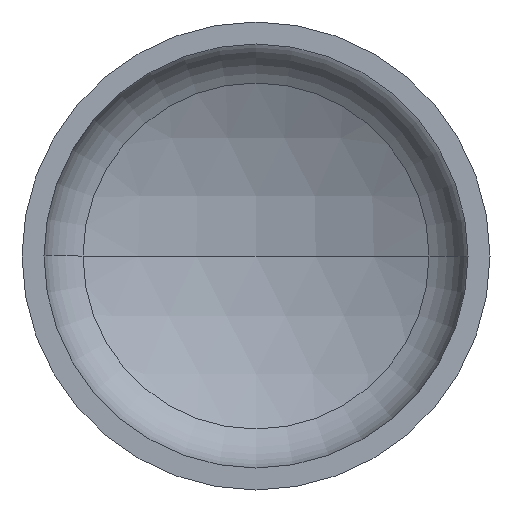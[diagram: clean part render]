
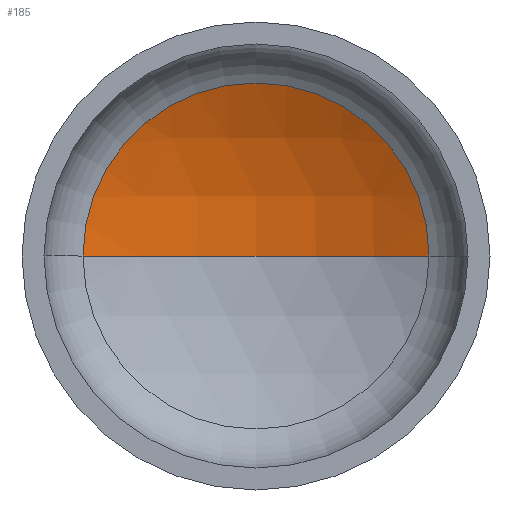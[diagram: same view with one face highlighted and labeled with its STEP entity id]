
A CAD part, front view. The second image highlights one B-rep face of the part: STEP entity #185.
In plain terms, the highlighted spherical face has radius 800 mm.
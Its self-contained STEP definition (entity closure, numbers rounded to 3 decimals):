
#4 = ORIENTED_EDGE ( 'NONE', *, *, #233, .T. ) ;
#6 = EDGE_LOOP ( 'NONE', ( #10, #36, #4 ) ) ;
#10 = ORIENTED_EDGE ( 'NONE', *, *, #244, .F. ) ;
#36 = ORIENTED_EDGE ( 'NONE', *, *, #236, .T. ) ;
#38 = VERTEX_POINT ( 'NONE', #269 ) ;
#65 = VERTEX_POINT ( 'NONE', #237 ) ;
#95 = VERTEX_POINT ( 'NONE', #296 ) ;
#126 = AXIS2_PLACEMENT_3D ( 'NONE', #290, #288, #284 ) ;
#133 = AXIS2_PLACEMENT_3D ( 'NONE', #226, #228, #273 ) ;
#137 = AXIS2_PLACEMENT_3D ( 'NONE', #308, #188, #218 ) ;
#156 = CIRCLE ( 'NONE', #133, 800. ) ;
#179 = AXIS2_PLACEMENT_3D ( 'NONE', #329, #334, #191 ) ;
#185 = ADVANCED_FACE ( 'NONE', ( #369 ), #266, .F. ) ;
#188 = DIRECTION ( 'NONE',  ( 0., -1., 0. ) ) ;
#191 = DIRECTION ( 'NONE',  ( -1., 0., 0. ) ) ;
#218 = DIRECTION ( 'NONE',  ( 1., 0., 0. ) ) ;
#226 = CARTESIAN_POINT ( 'NONE',  ( 0., -422.032, 0. ) ) ;
#228 = DIRECTION ( 'NONE',  ( 0., 0., -1. ) ) ;
#229 = CIRCLE ( 'NONE', #126, 800. ) ;
#233 = EDGE_CURVE ( 'NONE', #38, #65, #304, .T. ) ;
#236 = EDGE_CURVE ( 'NONE', #95, #38, #156, .T. ) ;
#237 = CARTESIAN_POINT ( 'NONE',  ( -369.612, 287.465, 0. ) ) ;
#244 = EDGE_CURVE ( 'NONE', #95, #65, #229, .T. ) ;
#266 = SPHERICAL_SURFACE ( 'NONE', #179, 800. ) ;
#269 = CARTESIAN_POINT ( 'NONE',  ( 369.612, 287.465, 0. ) ) ;
#273 = DIRECTION ( 'NONE',  ( -1., 0., 0. ) ) ;
#284 = DIRECTION ( 'NONE',  ( 1., 0., 0. ) ) ;
#288 = DIRECTION ( 'NONE',  ( 0., 0., 1. ) ) ;
#290 = CARTESIAN_POINT ( 'NONE',  ( 0., -422.032, 0. ) ) ;
#296 = CARTESIAN_POINT ( 'NONE',  ( 0., 377.968, 0. ) ) ;
#304 = CIRCLE ( 'NONE', #137, 369.612 ) ;
#308 = CARTESIAN_POINT ( 'NONE',  ( 0., 287.465, 0. ) ) ;
#329 = CARTESIAN_POINT ( 'NONE',  ( 0., -422.032, 0. ) ) ;
#334 = DIRECTION ( 'NONE',  ( 0., 0., -1. ) ) ;
#369 = FACE_OUTER_BOUND ( 'NONE', #6, .T. ) ;
